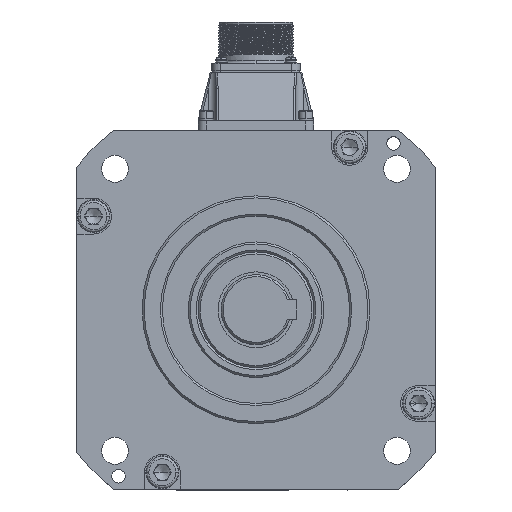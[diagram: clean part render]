
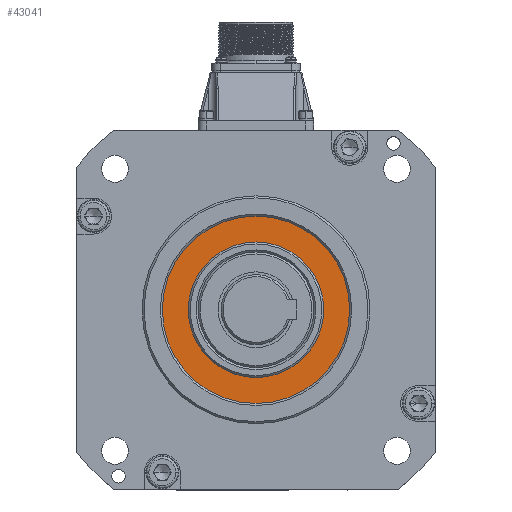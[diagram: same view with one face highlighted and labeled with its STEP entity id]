
A CAD part, top view. The second image highlights one B-rep face of the part: STEP entity #43041.
In plain terms, the highlighted planar face has unit normal (0, 0, 1).
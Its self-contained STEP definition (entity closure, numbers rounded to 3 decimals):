
#3962 = FACE_OUTER_BOUND ( 'NONE', #103347, .T. ) ;
#5850 = AXIS2_PLACEMENT_3D ( 'NONE', #107952, #57369, #7036 ) ;
#7036 = DIRECTION ( 'NONE',  ( -1., 0., 0. ) ) ;
#11841 = DIRECTION ( 'NONE',  ( 0., 0., 1. ) ) ;
#15652 = CIRCLE ( 'NONE', #28656, 47. ) ;
#19216 = CARTESIAN_POINT ( 'NONE',  ( 50.244, 253.225, 307.736 ) ) ;
#21538 = CIRCLE ( 'NONE', #5850, 34. ) ;
#22161 = DIRECTION ( 'NONE',  ( 0., 0., 1. ) ) ;
#25549 = ORIENTED_EDGE ( 'NONE', *, *, #63836, .T. ) ;
#25788 = CIRCLE ( 'NONE', #94561, 47. ) ;
#28656 = AXIS2_PLACEMENT_3D ( 'NONE', #62221, #11841, #70657 ) ;
#30202 = PLANE ( 'NONE',  #73679 ) ;
#30825 = AXIS2_PLACEMENT_3D ( 'NONE', #86273, #35824, #94795 ) ;
#35824 = DIRECTION ( 'NONE',  ( 0., 0., -1. ) ) ;
#36340 = VERTEX_POINT ( 'NONE', #71022 ) ;
#36984 = ORIENTED_EDGE ( 'NONE', *, *, #40060, .T. ) ;
#39008 = DIRECTION ( 'NONE',  ( 1., 0., 0. ) ) ;
#40060 = EDGE_CURVE ( 'NONE', #36340, #42870, #21538, .T. ) ;
#42870 = VERTEX_POINT ( 'NONE', #87324 ) ;
#43041 = ADVANCED_FACE ( 'NONE', ( #3962, #68433 ), #30202, .T. ) ;
#53033 = EDGE_LOOP ( 'NONE', ( #36984, #25549 ) ) ;
#56835 = CARTESIAN_POINT ( 'NONE',  ( 144.244, 253.225, 307.736 ) ) ;
#57369 = DIRECTION ( 'NONE',  ( 0., 0., -1. ) ) ;
#62221 = CARTESIAN_POINT ( 'NONE',  ( 97.244, 253.225, 307.736 ) ) ;
#62754 = CIRCLE ( 'NONE', #30825, 34. ) ;
#63836 = EDGE_CURVE ( 'NONE', #42870, #36340, #62754, .T. ) ;
#64039 = CARTESIAN_POINT ( 'NONE',  ( 97.244, 253.225, 307.736 ) ) ;
#68433 = FACE_BOUND ( 'NONE', #53033, .T. ) ;
#70657 = DIRECTION ( 'NONE',  ( -1., 0., 0. ) ) ;
#70862 = VERTEX_POINT ( 'NONE', #19216 ) ;
#71022 = CARTESIAN_POINT ( 'NONE',  ( 63.244, 253.225, 307.736 ) ) ;
#72569 = CARTESIAN_POINT ( 'NONE',  ( 97.244, 253.225, 307.736 ) ) ;
#73679 = AXIS2_PLACEMENT_3D ( 'NONE', #64039, #89511, #39008 ) ;
#81014 = ORIENTED_EDGE ( 'NONE', *, *, #92829, .T. ) ;
#81036 = DIRECTION ( 'NONE',  ( -1., 0., 0. ) ) ;
#86273 = CARTESIAN_POINT ( 'NONE',  ( 97.244, 253.225, 307.736 ) ) ;
#87324 = CARTESIAN_POINT ( 'NONE',  ( 131.244, 253.225, 307.736 ) ) ;
#89511 = DIRECTION ( 'NONE',  ( 0., 0., 1. ) ) ;
#92501 = ORIENTED_EDGE ( 'NONE', *, *, #95129, .T. ) ;
#92829 = EDGE_CURVE ( 'NONE', #109247, #70862, #15652, .T. ) ;
#94561 = AXIS2_PLACEMENT_3D ( 'NONE', #72569, #22161, #81036 ) ;
#94795 = DIRECTION ( 'NONE',  ( -1., 0., 0. ) ) ;
#95129 = EDGE_CURVE ( 'NONE', #70862, #109247, #25788, .T. ) ;
#103347 = EDGE_LOOP ( 'NONE', ( #92501, #81014 ) ) ;
#107952 = CARTESIAN_POINT ( 'NONE',  ( 97.244, 253.225, 307.736 ) ) ;
#109247 = VERTEX_POINT ( 'NONE', #56835 ) ;
